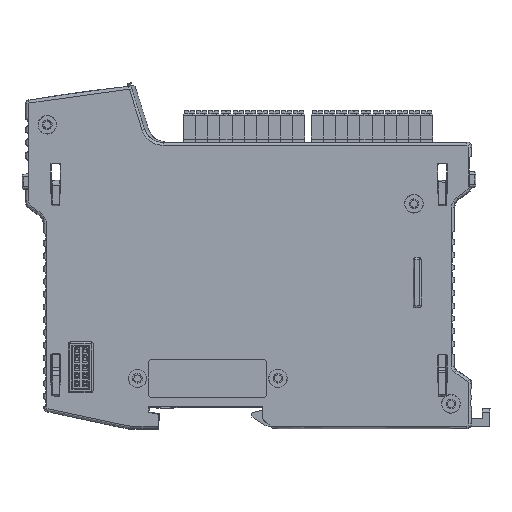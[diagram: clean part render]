
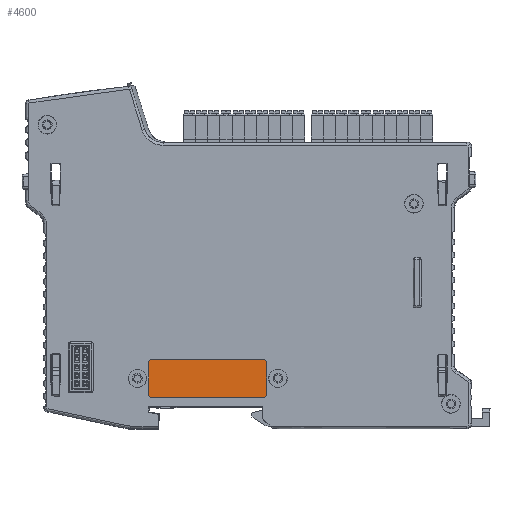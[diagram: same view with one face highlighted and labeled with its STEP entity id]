
A CAD part, left-side view. The second image highlights one B-rep face of the part: STEP entity #4600.
In plain terms, the highlighted planar face has unit normal (-1, 0, 0).
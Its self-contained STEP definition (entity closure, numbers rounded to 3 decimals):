
#4600=ADVANCED_FACE('',(#12295),#122852,.T.);
#12295=FACE_OUTER_BOUND('',#20170,.T.);
#20170=EDGE_LOOP('',(#40884,#40885,#40886,#40887,#40888,#40889,#40890,#40891));
#40884=ORIENTED_EDGE('',*,*,#74138,.F.);
#40885=ORIENTED_EDGE('',*,*,#74139,.T.);
#40886=ORIENTED_EDGE('',*,*,#74137,.F.);
#40887=ORIENTED_EDGE('',*,*,#74140,.T.);
#40888=ORIENTED_EDGE('',*,*,#74136,.F.);
#40889=ORIENTED_EDGE('',*,*,#74141,.T.);
#40890=ORIENTED_EDGE('',*,*,#74135,.F.);
#40891=ORIENTED_EDGE('',*,*,#74142,.T.);
#74135=EDGE_CURVE('',#112905,#112906,#93175,.T.);
#74136=EDGE_CURVE('',#112907,#112908,#93176,.T.);
#74137=EDGE_CURVE('',#112910,#112909,#93177,.T.);
#74138=EDGE_CURVE('',#112911,#112912,#93178,.T.);
#74139=EDGE_CURVE('',#112911,#112909,#104902,.T.);
#74140=EDGE_CURVE('',#112910,#112908,#104903,.T.);
#74141=EDGE_CURVE('',#112907,#112906,#104904,.T.);
#74142=EDGE_CURVE('',#112905,#112912,#104905,.T.);
#93175=B_SPLINE_CURVE_WITH_KNOTS('',1,(#195906,#195907),.UNSPECIFIED.,.F.,
 .F.,(2,2),(0.,34.973),.UNSPECIFIED.);
#93176=B_SPLINE_CURVE_WITH_KNOTS('',1,(#195908,#195909),.UNSPECIFIED.,.F.,
 .F.,(2,2),(0.,9.973),.UNSPECIFIED.);
#93177=B_SPLINE_CURVE_WITH_KNOTS('',1,(#195910,#195911),.UNSPECIFIED.,.F.,
 .F.,(2,2),(0.,34.973),.UNSPECIFIED.);
#93178=B_SPLINE_CURVE_WITH_KNOTS('',1,(#195912,#195913),.UNSPECIFIED.,.F.,
 .F.,(2,2),(0.,9.973),.UNSPECIFIED.);
#104902=(
BOUNDED_CURVE()
B_SPLINE_CURVE(3,(#195914,#195915,#195916,#195917),.UNSPECIFIED.,.F.,.F.)
B_SPLINE_CURVE_WITH_KNOTS((4,4),(0.,1.756),.UNSPECIFIED.)
CURVE()
GEOMETRIC_REPRESENTATION_ITEM()
RATIONAL_B_SPLINE_CURVE((1.,0.805,0.805,1.))
REPRESENTATION_ITEM('')
);
#104903=(
BOUNDED_CURVE()
B_SPLINE_CURVE(3,(#195918,#195919,#195920,#195921),.UNSPECIFIED.,.F.,.F.)
B_SPLINE_CURVE_WITH_KNOTS((4,4),(0.,1.756),.UNSPECIFIED.)
CURVE()
GEOMETRIC_REPRESENTATION_ITEM()
RATIONAL_B_SPLINE_CURVE((1.,0.805,0.805,1.))
REPRESENTATION_ITEM('')
);
#104904=(
BOUNDED_CURVE()
B_SPLINE_CURVE(3,(#195922,#195923,#195924,#195925),.UNSPECIFIED.,.F.,.F.)
B_SPLINE_CURVE_WITH_KNOTS((4,4),(0.,1.756),.UNSPECIFIED.)
CURVE()
GEOMETRIC_REPRESENTATION_ITEM()
RATIONAL_B_SPLINE_CURVE((1.,0.805,0.805,1.))
REPRESENTATION_ITEM('')
);
#104905=(
BOUNDED_CURVE()
B_SPLINE_CURVE(3,(#195926,#195927,#195928,#195929),.UNSPECIFIED.,.F.,.F.)
B_SPLINE_CURVE_WITH_KNOTS((4,4),(0.,1.756),.UNSPECIFIED.)
CURVE()
GEOMETRIC_REPRESENTATION_ITEM()
RATIONAL_B_SPLINE_CURVE((1.,0.805,0.805,1.))
REPRESENTATION_ITEM('')
);
#112905=VERTEX_POINT('',#184631);
#112906=VERTEX_POINT('',#184632);
#112907=VERTEX_POINT('',#184633);
#112908=VERTEX_POINT('',#184634);
#112909=VERTEX_POINT('',#184635);
#112910=VERTEX_POINT('',#184636);
#112911=VERTEX_POINT('',#184637);
#112912=VERTEX_POINT('',#184638);
#122852=PLANE('',#130313);
#130313=AXIS2_PLACEMENT_3D('',#178462,#135400,$);
#135400=DIRECTION('',(-1.,0.,0.));
#178462=CARTESIAN_POINT('',(-7.445,111.612,-99.082));
#184631=CARTESIAN_POINT('',(-7.445,106.914,-85.911));
#184632=CARTESIAN_POINT('',(-7.445,71.941,-85.911));
#184633=CARTESIAN_POINT('',(-7.445,70.941,-86.911));
#184634=CARTESIAN_POINT('',(-7.445,70.941,-96.884));
#184635=CARTESIAN_POINT('',(-7.445,106.914,-97.884));
#184636=CARTESIAN_POINT('',(-7.445,71.941,-97.884));
#184637=CARTESIAN_POINT('',(-7.445,107.913,-96.884));
#184638=CARTESIAN_POINT('',(-7.445,107.913,-86.911));
#195906=CARTESIAN_POINT('',(-7.445,106.914,-85.911));
#195907=CARTESIAN_POINT('',(-7.445,71.941,-85.911));
#195908=CARTESIAN_POINT('',(-7.445,70.941,-86.911));
#195909=CARTESIAN_POINT('',(-7.445,70.941,-96.884));
#195910=CARTESIAN_POINT('',(-7.445,71.941,-97.884));
#195911=CARTESIAN_POINT('',(-7.445,106.914,-97.884));
#195912=CARTESIAN_POINT('',(-7.445,107.913,-96.884));
#195913=CARTESIAN_POINT('',(-7.445,107.913,-86.911));
#195914=CARTESIAN_POINT('',(-7.445,107.913,-96.884));
#195915=CARTESIAN_POINT('',(-7.445,107.913,-97.47));
#195916=CARTESIAN_POINT('',(-7.445,107.5,-97.884));
#195917=CARTESIAN_POINT('',(-7.445,106.914,-97.884));
#195918=CARTESIAN_POINT('',(-7.445,71.941,-97.884));
#195919=CARTESIAN_POINT('',(-7.445,71.355,-97.884));
#195920=CARTESIAN_POINT('',(-7.445,70.941,-97.47));
#195921=CARTESIAN_POINT('',(-7.445,70.941,-96.884));
#195922=CARTESIAN_POINT('',(-7.445,70.941,-86.911));
#195923=CARTESIAN_POINT('',(-7.445,70.941,-86.325));
#195924=CARTESIAN_POINT('',(-7.445,71.355,-85.911));
#195925=CARTESIAN_POINT('',(-7.445,71.941,-85.911));
#195926=CARTESIAN_POINT('',(-7.445,106.914,-85.911));
#195927=CARTESIAN_POINT('',(-7.445,107.5,-85.911));
#195928=CARTESIAN_POINT('',(-7.445,107.913,-86.325));
#195929=CARTESIAN_POINT('',(-7.445,107.913,-86.911));
